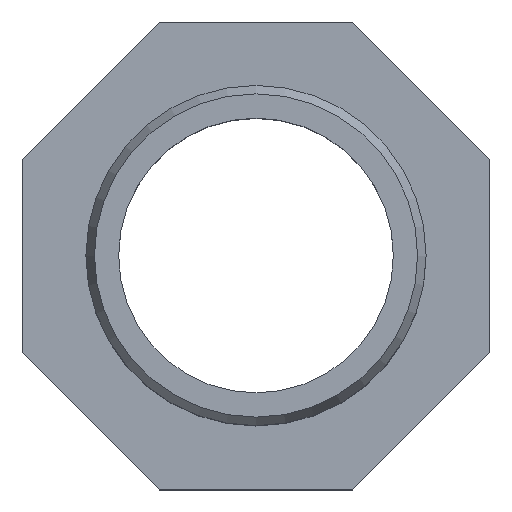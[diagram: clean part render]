
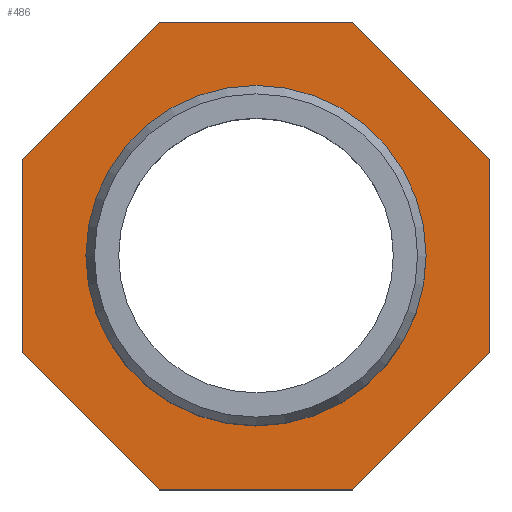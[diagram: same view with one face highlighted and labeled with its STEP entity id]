
A CAD part, top view. The second image highlights one B-rep face of the part: STEP entity #486.
In plain terms, the highlighted planar face has unit normal (0, 0, 1).
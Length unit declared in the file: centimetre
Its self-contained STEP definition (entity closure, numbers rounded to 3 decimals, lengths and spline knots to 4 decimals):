
#19=LINE('',#4465,#46);
#23=LINE('',#4473,#50);
#26=LINE('',#4479,#53);
#29=LINE('',#4485,#56);
#32=LINE('',#4491,#59);
#35=LINE('',#4497,#62);
#38=LINE('',#4503,#65);
#41=LINE('',#4508,#68);
#46=VECTOR('',#582,2.2782);
#50=VECTOR('',#588,2.2782);
#53=VECTOR('',#593,2.2782);
#56=VECTOR('',#598,2.2782);
#59=VECTOR('',#603,2.2782);
#62=VECTOR('',#608,2.2782);
#65=VECTOR('',#613,2.2782);
#68=VECTOR('',#618,2.2782);
#98=PLANE('',#524);
#109=FACE_BOUND('',#178,.T.);
#140=FACE_OUTER_BOUND('',#177,.T.);
#177=EDGE_LOOP('',(#397,#398,#399,#400,#401,#402,#403,#404));
#178=EDGE_LOOP('',(#405));
#207=CIRCLE('',#512,2.);
#233=VERTEX_POINT('',#4457);
#235=VERTEX_POINT('',#4463);
#236=VERTEX_POINT('',#4464);
#239=VERTEX_POINT('',#4472);
#241=VERTEX_POINT('',#4478);
#243=VERTEX_POINT('',#4484);
#245=VERTEX_POINT('',#4490);
#247=VERTEX_POINT('',#4496);
#249=VERTEX_POINT('',#4502);
#281=EDGE_CURVE('',#233,#233,#207,.T.);
#283=EDGE_CURVE('',#235,#236,#19,.T.);
#287=EDGE_CURVE('',#239,#235,#23,.T.);
#290=EDGE_CURVE('',#241,#239,#26,.T.);
#293=EDGE_CURVE('',#243,#241,#29,.T.);
#296=EDGE_CURVE('',#245,#243,#32,.T.);
#299=EDGE_CURVE('',#247,#245,#35,.T.);
#302=EDGE_CURVE('',#249,#247,#38,.T.);
#305=EDGE_CURVE('',#236,#249,#41,.T.);
#397=ORIENTED_EDGE('',*,*,#305,.F.);
#398=ORIENTED_EDGE('',*,*,#283,.F.);
#399=ORIENTED_EDGE('',*,*,#287,.F.);
#400=ORIENTED_EDGE('',*,*,#290,.F.);
#401=ORIENTED_EDGE('',*,*,#293,.F.);
#402=ORIENTED_EDGE('',*,*,#296,.F.);
#403=ORIENTED_EDGE('',*,*,#299,.F.);
#404=ORIENTED_EDGE('',*,*,#302,.F.);
#405=ORIENTED_EDGE('',*,*,#281,.F.);
#486=ADVANCED_FACE('',(#140,#109),#98,.T.);
#512=AXIS2_PLACEMENT_3D('',#4458,#574,#575);
#524=AXIS2_PLACEMENT_3D('',#4511,#622,#623);
#574=DIRECTION('center_axis',(0.,0.,1.));
#575=DIRECTION('ref_axis',(1.,0.,0.));
#582=DIRECTION('',(1.,0.,0.));
#588=DIRECTION('',(0.707,0.707,0.));
#593=DIRECTION('',(0.,1.,0.));
#598=DIRECTION('',(-0.707,0.707,0.));
#603=DIRECTION('',(-1.,0.,0.));
#608=DIRECTION('',(-0.707,-0.707,0.));
#613=DIRECTION('',(0.,-1.,0.));
#618=DIRECTION('',(0.707,-0.707,0.));
#622=DIRECTION('center_axis',(0.,0.,1.));
#623=DIRECTION('ref_axis',(1.,0.,0.));
#4457=CARTESIAN_POINT('',(1.598,-0.003,1.2233));
#4458=CARTESIAN_POINT('Origin',(-0.402,-0.003,
1.2233));
#4463=CARTESIAN_POINT('',(-1.5411,2.747,1.2233));
#4464=CARTESIAN_POINT('',(0.7371,2.747,1.2233));
#4465=CARTESIAN_POINT('',(-1.5411,2.747,1.2233));
#4472=CARTESIAN_POINT('',(-3.152,1.1361,1.2233));
#4473=CARTESIAN_POINT('',(-3.152,1.1361,1.2233));
#4478=CARTESIAN_POINT('',(-3.152,-1.1421,1.2233));
#4479=CARTESIAN_POINT('',(-3.152,-1.1421,1.2233));
#4484=CARTESIAN_POINT('',(-1.5411,-2.753,1.2233));
#4485=CARTESIAN_POINT('',(-1.5411,-2.753,1.2233));
#4490=CARTESIAN_POINT('',(0.7371,-2.753,1.2233));
#4491=CARTESIAN_POINT('',(0.7371,-2.753,1.2233));
#4496=CARTESIAN_POINT('',(2.348,-1.1421,1.2233));
#4497=CARTESIAN_POINT('',(2.348,-1.1421,1.2233));
#4502=CARTESIAN_POINT('',(2.348,1.1361,1.2233));
#4503=CARTESIAN_POINT('',(2.348,1.1361,1.2233));
#4508=CARTESIAN_POINT('',(0.7371,2.747,1.2233));
#4511=CARTESIAN_POINT('Origin',(1.598,-0.003,1.2233));
